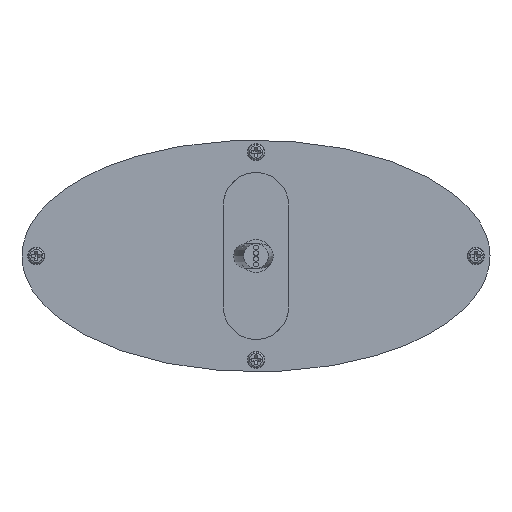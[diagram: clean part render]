
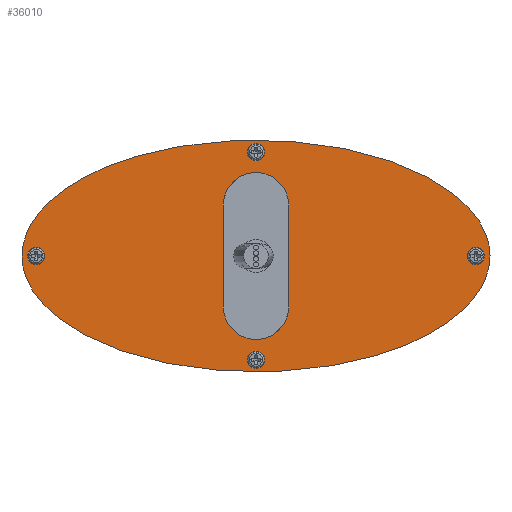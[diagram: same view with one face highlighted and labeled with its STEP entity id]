
A CAD part, front view. The second image highlights one B-rep face of the part: STEP entity #36010.
In plain terms, the highlighted planar face has unit normal (0, -1, 0).
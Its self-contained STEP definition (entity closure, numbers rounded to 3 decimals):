
#108 =( BOUNDED_CURVE ( )  B_SPLINE_CURVE ( 3, ( #10316, #1657, #43167, #15645 ),
 .UNSPECIFIED., .F., .F. ) 
 B_SPLINE_CURVE_WITH_KNOTS ( ( 4, 4 ),
 ( 0., 3.142 ),
 .UNSPECIFIED. ) 
 CURVE ( )  GEOMETRIC_REPRESENTATION_ITEM ( )  RATIONAL_B_SPLINE_CURVE ( ( 1., 0.333, 0.333, 1. ) ) 
 REPRESENTATION_ITEM ( '' )  );
#282 = EDGE_CURVE ( 'NONE', #31814, #5513, #58781, .T. ) ;
#438 = ORIENTED_EDGE ( 'NONE', *, *, #36365, .F. ) ;
#1632 = DIRECTION ( 'NONE',  ( 0., 0., -1. ) ) ;
#1657 = CARTESIAN_POINT ( 'NONE',  ( 57.5, 0., -57. ) ) ;
#1791 = ORIENTED_EDGE ( 'NONE', *, *, #282, .F. ) ;
#2005 = ORIENTED_EDGE ( 'NONE', *, *, #22452, .F. ) ;
#2320 = CIRCLE ( 'NONE', #13028, 8. ) ;
#2726 = DIRECTION ( 'NONE',  ( 0., -1., 0. ) ) ;
#3131 = VERTEX_POINT ( 'NONE', #26612 ) ;
#3206 = CIRCLE ( 'NONE', #33765, 2.1 ) ;
#4846 = CARTESIAN_POINT ( 'NONE',  ( 54., 0., 0. ) ) ;
#5187 = DIRECTION ( 'NONE',  ( 0., -1., 0. ) ) ;
#5513 = VERTEX_POINT ( 'NONE', #8082 ) ;
#5534 = AXIS2_PLACEMENT_3D ( 'NONE', #39524, #15758, #58205 ) ;
#5574 = EDGE_CURVE ( 'NONE', #55002, #32360, #21951, .T. ) ;
#5996 = ORIENTED_EDGE ( 'NONE', *, *, #14664, .F. ) ;
#6030 = PLANE ( 'NONE',  #17772 ) ;
#7688 = EDGE_CURVE ( 'NONE', #32360, #55002, #108, .T. ) ;
#8082 = CARTESIAN_POINT ( 'NONE',  ( 0., 0., 27.6 ) ) ;
#9985 = AXIS2_PLACEMENT_3D ( 'NONE', #42450, #37516, #23968 ) ;
#10316 = CARTESIAN_POINT ( 'NONE',  ( 57.5, 0., 0. ) ) ;
#10686 = CARTESIAN_POINT ( 'NONE',  ( 0., 0., 25.5 ) ) ;
#10730 = CARTESIAN_POINT ( 'NONE',  ( 0., 0., -25.5 ) ) ;
#11375 = DIRECTION ( 'NONE',  ( 0., 0., 1. ) ) ;
#12828 = EDGE_CURVE ( 'NONE', #30771, #3131, #2320, .T. ) ;
#13028 = AXIS2_PLACEMENT_3D ( 'NONE', #16183, #43904, #58242 ) ;
#13800 = CARTESIAN_POINT ( 'NONE',  ( 57.5, 0., 0. ) ) ;
#14561 = DIRECTION ( 'NONE',  ( 0., -1., 0. ) ) ;
#14664 = EDGE_CURVE ( 'NONE', #3131, #30771, #44581, .T. ) ;
#15415 = DIRECTION ( 'NONE',  ( 0., -1., 0. ) ) ;
#15463 = CARTESIAN_POINT ( 'NONE',  ( 54., 0., 2.1 ) ) ;
#15645 = CARTESIAN_POINT ( 'NONE',  ( -57.5, 0., 0. ) ) ;
#15745 = VERTEX_POINT ( 'NONE', #18092 ) ;
#15758 = DIRECTION ( 'NONE',  ( 0., -1., 0. ) ) ;
#15860 = EDGE_LOOP ( 'NONE', ( #26653, #41530 ) ) ;
#15906 = DIRECTION ( 'NONE',  ( 0., -1., 0. ) ) ;
#16033 = DIRECTION ( 'NONE',  ( 0., 0., -1. ) ) ;
#16101 = DIRECTION ( 'NONE',  ( 0., 1., 0. ) ) ;
#16183 = CARTESIAN_POINT ( 'NONE',  ( 0., 0., 0. ) ) ;
#16784 = FACE_BOUND ( 'NONE', #38911, .T. ) ;
#17772 = AXIS2_PLACEMENT_3D ( 'NONE', #34769, #16101, #11375 ) ;
#17790 = CARTESIAN_POINT ( 'NONE',  ( 57.5, 0., 0. ) ) ;
#18092 = CARTESIAN_POINT ( 'NONE',  ( -54., 0., 2.1 ) ) ;
#18254 = FACE_OUTER_BOUND ( 'NONE', #32968, .T. ) ;
#18864 = CARTESIAN_POINT ( 'NONE',  ( -54., 0., 0. ) ) ;
#19075 = ORIENTED_EDGE ( 'NONE', *, *, #37951, .F. ) ;
#19493 = EDGE_CURVE ( 'NONE', #15745, #34647, #57470, .T. ) ;
#20517 = FACE_BOUND ( 'NONE', #15860, .T. ) ;
#21951 =( BOUNDED_CURVE ( )  B_SPLINE_CURVE ( 3, ( #51577, #23231, #56078, #13800 ),
 .UNSPECIFIED., .F., .F. ) 
 B_SPLINE_CURVE_WITH_KNOTS ( ( 4, 4 ),
 ( 3.142, 6.283 ),
 .UNSPECIFIED. ) 
 CURVE ( )  GEOMETRIC_REPRESENTATION_ITEM ( )  RATIONAL_B_SPLINE_CURVE ( ( 1., 0.333, 0.333, 1. ) ) 
 REPRESENTATION_ITEM ( '' )  );
#22217 = CARTESIAN_POINT ( 'NONE',  ( 0., 0., 25.5 ) ) ;
#22286 = AXIS2_PLACEMENT_3D ( 'NONE', #51922, #14561, #42685 ) ;
#22452 = EDGE_CURVE ( 'NONE', #5513, #31814, #24831, .T. ) ;
#23231 = CARTESIAN_POINT ( 'NONE',  ( -57.5, 0., 57. ) ) ;
#23968 = DIRECTION ( 'NONE',  ( 0., 0., 1. ) ) ;
#24831 = CIRCLE ( 'NONE', #46576, 2.1 ) ;
#26612 = CARTESIAN_POINT ( 'NONE',  ( 0., 0., 8. ) ) ;
#26653 = ORIENTED_EDGE ( 'NONE', *, *, #34541, .F. ) ;
#26795 = ORIENTED_EDGE ( 'NONE', *, *, #5574, .F. ) ;
#27753 = CARTESIAN_POINT ( 'NONE',  ( 0., 0., -23.4 ) ) ;
#28051 = ORIENTED_EDGE ( 'NONE', *, *, #42870, .F. ) ;
#28400 = CARTESIAN_POINT ( 'NONE',  ( -57.5, 0., 0. ) ) ;
#29136 = VERTEX_POINT ( 'NONE', #27753 ) ;
#30771 = VERTEX_POINT ( 'NONE', #44053 ) ;
#31243 = DIRECTION ( 'NONE',  ( 0., 0., -1. ) ) ;
#31814 = VERTEX_POINT ( 'NONE', #56442 ) ;
#32360 = VERTEX_POINT ( 'NONE', #17790 ) ;
#32495 = CARTESIAN_POINT ( 'NONE',  ( 0., 0., -27.6 ) ) ;
#32968 = EDGE_LOOP ( 'NONE', ( #56819, #26795 ) ) ;
#33765 = AXIS2_PLACEMENT_3D ( 'NONE', #18864, #52143, #51727 ) ;
#33964 = EDGE_LOOP ( 'NONE', ( #1791, #2005 ) ) ;
#34541 = EDGE_CURVE ( 'NONE', #34647, #15745, #3206, .T. ) ;
#34647 = VERTEX_POINT ( 'NONE', #56224 ) ;
#34769 = CARTESIAN_POINT ( 'NONE',  ( 0., 0., 0. ) ) ;
#35162 = FACE_BOUND ( 'NONE', #40770, .T. ) ;
#35629 = CARTESIAN_POINT ( 'NONE',  ( 54., 0., -2.1 ) ) ;
#36010 = ADVANCED_FACE ( 'NONE', ( #20517, #60137, #16784, #57194, #35162, #18254 ), #6030, .F. ) ;
#36253 = VERTEX_POINT ( 'NONE', #32495 ) ;
#36365 = EDGE_CURVE ( 'NONE', #36253, #29136, #48389, .T. ) ;
#37516 = DIRECTION ( 'NONE',  ( 0., -1., 0. ) ) ;
#37560 = AXIS2_PLACEMENT_3D ( 'NONE', #4846, #15906, #58770 ) ;
#37951 = EDGE_CURVE ( 'NONE', #51175, #57872, #60604, .T. ) ;
#38911 = EDGE_LOOP ( 'NONE', ( #438, #44529 ) ) ;
#39524 = CARTESIAN_POINT ( 'NONE',  ( 54., 0., 0. ) ) ;
#40208 = ORIENTED_EDGE ( 'NONE', *, *, #12828, .F. ) ;
#40770 = EDGE_LOOP ( 'NONE', ( #5996, #40208 ) ) ;
#41530 = ORIENTED_EDGE ( 'NONE', *, *, #19493, .F. ) ;
#42450 = CARTESIAN_POINT ( 'NONE',  ( 0., 0., 0. ) ) ;
#42491 = AXIS2_PLACEMENT_3D ( 'NONE', #22217, #2726, #31243 ) ;
#42685 = DIRECTION ( 'NONE',  ( 0., 0., -1. ) ) ;
#42870 = EDGE_CURVE ( 'NONE', #57872, #51175, #58753, .T. ) ;
#43167 = CARTESIAN_POINT ( 'NONE',  ( -57.5, 0., -57. ) ) ;
#43237 = EDGE_LOOP ( 'NONE', ( #19075, #28051 ) ) ;
#43576 = DIRECTION ( 'NONE',  ( 0., 0., -1. ) ) ;
#43904 = DIRECTION ( 'NONE',  ( 0., -1., 0. ) ) ;
#44053 = CARTESIAN_POINT ( 'NONE',  ( 0., 0., -8. ) ) ;
#44060 = AXIS2_PLACEMENT_3D ( 'NONE', #52388, #58503, #16033 ) ;
#44529 = ORIENTED_EDGE ( 'NONE', *, *, #45902, .F. ) ;
#44581 = CIRCLE ( 'NONE', #9985, 8. ) ;
#45902 = EDGE_CURVE ( 'NONE', #29136, #36253, #53254, .T. ) ;
#46576 = AXIS2_PLACEMENT_3D ( 'NONE', #10686, #15415, #1632 ) ;
#48389 = CIRCLE ( 'NONE', #48893, 2.1 ) ;
#48893 = AXIS2_PLACEMENT_3D ( 'NONE', #10730, #5187, #43576 ) ;
#51175 = VERTEX_POINT ( 'NONE', #35629 ) ;
#51577 = CARTESIAN_POINT ( 'NONE',  ( -57.5, 0., 0. ) ) ;
#51727 = DIRECTION ( 'NONE',  ( 0., 0., -1. ) ) ;
#51922 = CARTESIAN_POINT ( 'NONE',  ( 0., 0., -25.5 ) ) ;
#52143 = DIRECTION ( 'NONE',  ( 0., -1., 0. ) ) ;
#52388 = CARTESIAN_POINT ( 'NONE',  ( -54., 0., 0. ) ) ;
#53254 = CIRCLE ( 'NONE', #22286, 2.1 ) ;
#55002 = VERTEX_POINT ( 'NONE', #28400 ) ;
#56078 = CARTESIAN_POINT ( 'NONE',  ( 57.5, 0., 57. ) ) ;
#56224 = CARTESIAN_POINT ( 'NONE',  ( -54., 0., -2.1 ) ) ;
#56442 = CARTESIAN_POINT ( 'NONE',  ( 0., 0., 23.4 ) ) ;
#56819 = ORIENTED_EDGE ( 'NONE', *, *, #7688, .F. ) ;
#57194 = FACE_BOUND ( 'NONE', #33964, .T. ) ;
#57470 = CIRCLE ( 'NONE', #44060, 2.1 ) ;
#57872 = VERTEX_POINT ( 'NONE', #15463 ) ;
#58205 = DIRECTION ( 'NONE',  ( 0., 0., -1. ) ) ;
#58242 = DIRECTION ( 'NONE',  ( 0., 0., 1. ) ) ;
#58503 = DIRECTION ( 'NONE',  ( 0., -1., 0. ) ) ;
#58753 = CIRCLE ( 'NONE', #5534, 2.1 ) ;
#58770 = DIRECTION ( 'NONE',  ( 0., 0., -1. ) ) ;
#58781 = CIRCLE ( 'NONE', #42491, 2.1 ) ;
#60137 = FACE_BOUND ( 'NONE', #43237, .T. ) ;
#60604 = CIRCLE ( 'NONE', #37560, 2.1 ) ;
